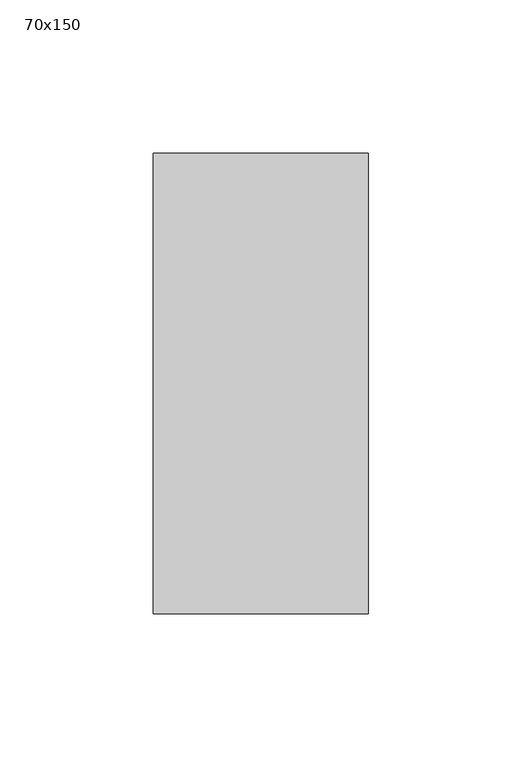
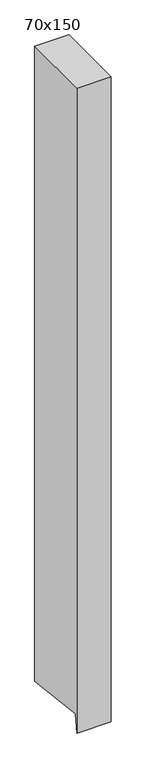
"""IFC4 building model written with IfcOpenShell, lengths in millimetres: member geometry, 長方形のマリオン : 70x150."""

from ifc_helpers import new_model, si_unit, frame, origin, place, context, project, spatial, polyline, outline, extrude, source, transform, mapped, element, save


def member_70x150_8ed7a741(model_context):
    return source(origin(), model_context, "Body", "SweptSolid", [
        extrude(outline(polyline([(-75.0, 0.0), (75.0, 0.0), (75.0, -1378.4545813), (-70.1901706, -1360.6766403), (-75.0, -1399.957902), (-75.0, 0.0)])), frame((-70.0, 0.0, 0.0), z_axis=(1.0, 0.0, 0.0), x_axis=(0.0, 1.0, 0.0)), (0.0, 0.0, 1.0), 70.0),
    ])


if __name__ == "__main__":
    model = new_model("IFC4")
    model_context = context("Model", 3, world=origin())
    ifc_project = project(units=[si_unit("LENGTHUNIT", "METRE", prefix="MILLI")], contexts=[model_context])
    site = spatial("IfcSite", under=ifc_project)
    building = spatial("IfcBuilding", under=site)
    placement = place(None, origin())
    member_70x150_shape = member_70x150_8ed7a741(model_context)
    element("IfcMember", 1, ObjectType="長方形のマリオン : 70x150", at=placement, inside=building, context=model_context, shape_type="MappedRepresentation", body=[
        mapped(member_70x150_shape, transform((0.0, 0.0, 0.0), x_axis=(1.0, 0.0, 0.0), y_axis=(0.0, 1.0, 0.0), z_axis=(0.0, 0.0, 1.0))),
    ])
    save(model, "model.ifc")
